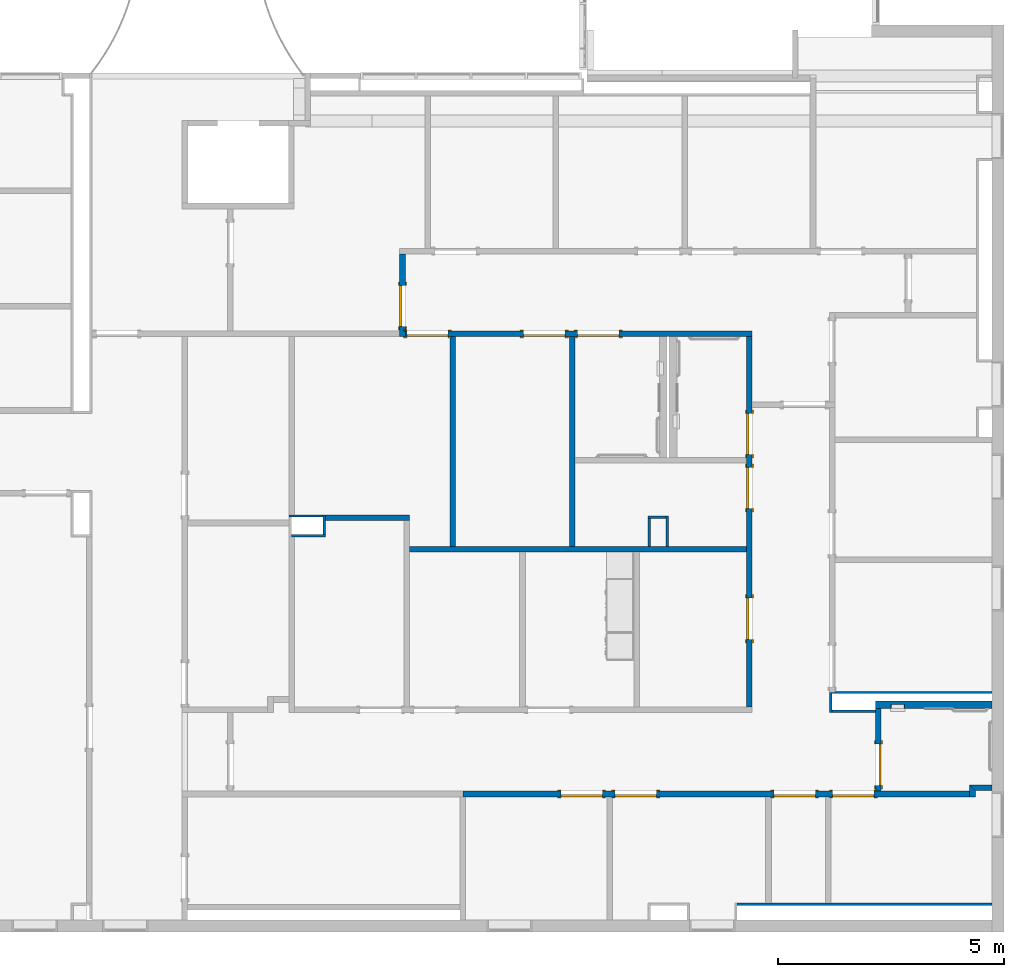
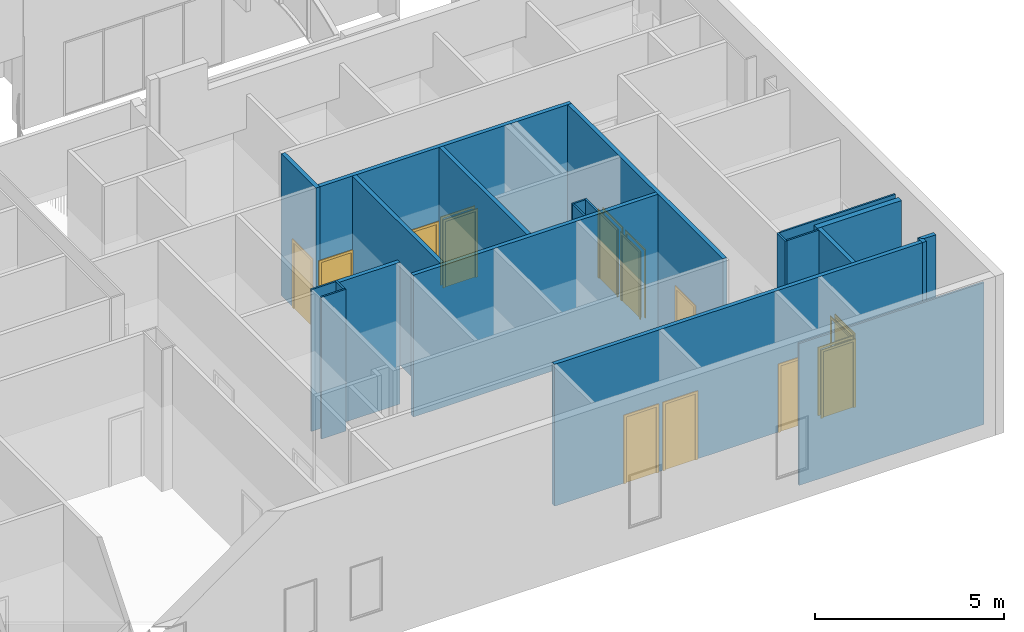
# One storey, part 15 of 45: 22 walls, 12 doors, 13 openings.
"""IFC2X3 building model written with IfcOpenShell, lengths in metres."""

from ifc_helpers import new_model, entity, si_unit, converted_unit, frame, frame_2d, origin, origin_2d_with_axis, place, context, project, spatial, polyline, rectangle, outline, extrude, source, transform, mapped, material, layer, layer_set, layer_usage, type_object, type_shapes, element, fill, save


model = new_model("IFC2X3")

# Units and contexts
model_context = context("Model", 3, precision=1e-09, world=origin())
plan_context = context("Plan", 3, precision=1e-09, world=origin())
ifc_project = project(units=[si_unit("LENGTHUNIT", "METRE"), si_unit("AREAUNIT", "SQUARE_METRE"), si_unit("VOLUMEUNIT", "CUBIC_METRE"), converted_unit("PLANEANGLEUNIT", "DEGREE", entity("IfcRatioMeasure", 0.01745329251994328), si_unit("PLANEANGLEUNIT", "RADIAN"), dimensions=[0, 0, 0, 0, 0, 0, 0]), si_unit("TIMEUNIT", "SECOND")], contexts=[model_context, plan_context])

# Site, building, storey
site_placement = place(None, origin())
site = spatial("IfcSite", under=ifc_project, at=site_placement, Name="Default", CompositionType="ELEMENT")
building_placement = place(site_placement, origin())
building = spatial("IfcBuilding", under=site, at=building_placement, CompositionType="ELEMENT")
storey_placement = place(building_placement, frame((0.0, 0.0, 4.570000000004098)))
storey = spatial("IfcBuildingStorey", under=building, at=storey_placement, Name="Second Floor", CompositionType="ELEMENT", Elevation=4.570000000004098)

# Wall, openings, doors
ifc_material_1 = material(Name="Plasterboard")
ifc_layer_1 = layer(ifc_material_1, 0.016)
ifc_material_2 = material(Name="Metal - Stud Layer")
ifc_layer_2 = layer(ifc_material_2, 0.092)
ifc_layer_3 = layer(ifc_material_1, 0.016)
ifc_layer_set_1 = layer_set([ifc_layer_1, ifc_layer_2, ifc_layer_3], Name="Basic Wall:Interior - Partition (92mm Stud)")
ifc_layer_usage_1 = layer_usage(ifc_layer_set_1, "AXIS2", "NEGATIVE", 0.062)
wall_1_placement = place(storey_placement, frame((-0.3790000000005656, 12.71799999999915, 0.0), z_axis=(0.0, 0.0, 1.0), x_axis=(-1.0, 0.0, 0.0)))
wall_1 = element("IfcWallStandardCase", 1, at=wall_1_placement, inside=storey, material=ifc_layer_usage_1, Name="Basic Wall:Interior - Partition (92mm Stud)", ObjectType="Basic Wall:Interior - Partition (92mm Stud)", context=model_context, shape_type="SweptSolid", body=[
    extrude(rectangle(XDim=11.23299985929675, YDim=0.1240000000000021, at=frame_2d((5.616499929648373, 0.0), x_axis=(-1.0, 0.0))), origin(), (0.0, 0.0, 1.0), 4.577999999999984),
])
opening_1_placement = place(wall_1_placement, frame((3.421999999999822, -0.06200000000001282, 0.0)))
opening_1 = element("IfcOpeningElement", 2, at=opening_1_placement, cuts=wall_1, Name="M_Single-Flush:0915 x 2134mm:0915 x 2134mm:1", ObjectType="Opening", context=model_context, shape_type="SweptSolid", body=[
    extrude(rectangle(XDim=0.9149999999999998, YDim=2.134, at=frame_2d((1.067, 0.4575), x_axis=(0.0, 1.0))), frame((0.0, 0.0, 0.0), z_axis=(0.0, 1.0, 0.0), x_axis=(0.0, 0.0, 1.0)), (0.0, 0.0, 1.0), 0.124),
])
opening_2_placement = place(wall_1_placement, frame((6.941999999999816, -0.06200000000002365, 0.0)))
opening_2 = element("IfcOpeningElement", 3, at=opening_2_placement, cuts=wall_1, Name="M_Single-Flush:0915 x 2134mm:0915 x 2134mm:1", ObjectType="Opening", context=model_context, shape_type="SweptSolid", body=[
    extrude(rectangle(XDim=0.9149999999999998, YDim=2.134, at=frame_2d((1.067, 0.4575), x_axis=(0.0, 1.0))), frame((0.0, 0.0, 0.0), z_axis=(0.0, 1.0, 0.0), x_axis=(0.0, 0.0, 1.0)), (0.0, 0.0, 1.0), 0.124),
])
opening_3_placement = place(wall_1_placement, frame((8.14099999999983, -0.06200000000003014, 0.0)))
opening_3 = element("IfcOpeningElement", 4, at=opening_3_placement, cuts=wall_1, Name="M_Single-Flush:0915 x 2134mm:0915 x 2134mm:1", ObjectType="Opening", context=model_context, shape_type="SweptSolid", body=[
    extrude(rectangle(XDim=0.9150000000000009, YDim=2.134, at=frame_2d((1.067, 0.4574999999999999), x_axis=(0.0, -1.0))), frame((0.0, 0.0, 0.0), z_axis=(0.0, 1.0, 0.0), x_axis=(0.0, 0.0, 1.0)), (0.0, 0.0, 1.0), 0.124),
])
opening_4_placement = place(wall_1_placement, frame((2.120499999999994, -0.06200000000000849, 0.0)))
opening_4 = element("IfcOpeningElement", 5, at=opening_4_placement, cuts=wall_1, Name="M_Single-Flush:0915 x 2134mm:0915 x 2134mm:1", ObjectType="Opening", context=model_context, shape_type="SweptSolid", body=[
    extrude(rectangle(XDim=0.9149999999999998, YDim=2.134, at=frame_2d((1.067, 0.4574999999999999), x_axis=(0.0, 1.0))), frame((0.0, 0.0, 0.0), z_axis=(0.0, 1.0, 0.0), x_axis=(0.0, 0.0, 1.0)), (0.0, 0.0, 1.0), 0.124),
])
door_style_1 = type_object("IfcDoorStyle", Name="0915 x 2134mm", ConstructionType="NOTDEFINED", OperationType="SINGLE_SWING_RIGHT", ParameterTakesPrecedence=False, Sizeable=False)
shared_shape_1 = source(origin(), model_context, "Body", "SweptSolid", [
    extrude(outline(polyline([(-0.5335, -1.123999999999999), (0.5334999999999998, -1.123999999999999), (0.5334999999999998, 1.086), (0.4574999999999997, 1.086), (0.4574999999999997, -1.048000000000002), (-0.4574999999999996, -1.048000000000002), (-0.4574999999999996, 1.086), (-0.5335, 1.086), (-0.5335, -1.123999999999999)])), frame((0.4575000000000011, 0.1239999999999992, 1.086), z_axis=(0.0, 1.0, 0.0), x_axis=(1.0, 0.0, 0.0)), (0.0, 0.0, 1.0), 0.02499999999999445),
    extrude(outline(polyline([(-1.123999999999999, -0.5334999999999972), (1.085999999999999, -0.5334999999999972), (1.085999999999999, -0.4575000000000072), (-1.048, -0.4575000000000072), (-1.048, 0.4575000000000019), (1.085999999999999, 0.4575000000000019), (1.085999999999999, 0.5335000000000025), (-1.123999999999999, 0.5335000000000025), (-1.123999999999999, -0.5334999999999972)])), frame((0.4575000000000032, -0.02500000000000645, 1.085999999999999), z_axis=(0.0, 1.0, 0.0), x_axis=(0.0, 0.0, -1.0)), (0.0, 0.0, 1.0), 0.02500000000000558),
    extrude(rectangle(XDim=0.051, YDim=0.9149999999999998, at=origin_2d_with_axis()), frame((0.4575000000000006, 0.09849999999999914, 0.0), z_axis=(0.0, 0.0, 1.0), x_axis=(0.0, 1.0, 0.0)), (0.0, 0.0, 1.0), 2.133999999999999),
])
type_shapes(door_style_1, [shared_shape_1])
door_1_placement = place(opening_2_placement, origin())
door_1 = element("IfcDoor", 6, at=door_1_placement, inside=storey, type_object=door_style_1, Name="M_Single-Flush:0915 x 2134mm:0915 x 2134mm", ObjectType="0915 x 2134mm", OverallHeight=2.134, OverallWidth=0.9149999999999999, context=model_context, shape_type="MappedRepresentation", body=[
    mapped(shared_shape_1, transform((0.0, 0.0, 0.0), scale=1.0)),
])
fill(opening_2, door_1)
door_2_placement = place(opening_1_placement, origin())
door_2 = element("IfcDoor", 7, at=door_2_placement, inside=storey, type_object=door_style_1, Name="M_Single-Flush:0915 x 2134mm:0915 x 2134mm", ObjectType="0915 x 2134mm", OverallHeight=2.134, OverallWidth=0.9149999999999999, context=model_context, shape_type="MappedRepresentation", body=[
    mapped(shared_shape_1, transform((0.0, 0.0, 0.0), scale=1.0)),
])
fill(opening_1, door_2)
door_3_placement = place(opening_4_placement, origin())
door_3 = element("IfcDoor", 8, at=door_3_placement, inside=storey, type_object=door_style_1, Name="M_Single-Flush:0915 x 2134mm:0915 x 2134mm", ObjectType="0915 x 2134mm", OverallHeight=2.134, OverallWidth=0.9149999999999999, context=model_context, shape_type="MappedRepresentation", body=[
    mapped(shared_shape_1, transform((0.0, 0.0, 0.0), scale=1.0)),
])
fill(opening_4, door_3)
door_style_2 = type_object("IfcDoorStyle", Name="0915 x 2134mm", ConstructionType="NOTDEFINED", OperationType="SINGLE_SWING_LEFT", ParameterTakesPrecedence=False, Sizeable=False)
shared_shape_2 = source(origin(), model_context, "Body", "SweptSolid", [
    extrude(outline(polyline([(-0.5335, -1.123999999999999), (0.5334999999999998, -1.123999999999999), (0.5334999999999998, 1.086), (0.4574999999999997, 1.086), (0.4574999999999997, -1.048000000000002), (-0.4574999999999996, -1.048000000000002), (-0.4574999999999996, 1.086), (-0.5335, 1.086), (-0.5335, -1.123999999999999)])), frame((0.4575000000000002, 0.1489999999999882, 1.086), z_axis=(0.0, -1.0, 0.0), x_axis=(-1.0, 0.0, 0.0)), (0.0, 0.0, 1.0), 0.02499999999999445),
    extrude(outline(polyline([(-1.123999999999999, -0.5334999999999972), (1.085999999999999, -0.5334999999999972), (1.085999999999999, -0.4575000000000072), (-1.048, -0.4575000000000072), (-1.048, 0.4575000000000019), (1.085999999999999, 0.4575000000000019), (1.085999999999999, 0.5335000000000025), (-1.123999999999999, 0.5335000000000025), (-1.123999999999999, -0.5334999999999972)])), frame((0.4574999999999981, 0.0, 1.085999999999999), z_axis=(0.0, -1.0, 0.0), x_axis=(0.0, 0.0, -1.0)), (0.0, 0.0, 1.0), 0.02500000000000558),
    extrude(rectangle(XDim=0.9149999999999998, YDim=0.051, at=origin_2d_with_axis()), frame((0.4575000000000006, 0.09849999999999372, 0.0)), (0.0, 0.0, 1.0), 2.133999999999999),
])
type_shapes(door_style_2, [shared_shape_2])
door_4_placement = place(opening_3_placement, origin())
door_4 = element("IfcDoor", 9, at=door_4_placement, inside=storey, type_object=door_style_2, Name="M_Single-Flush:0915 x 2134mm:0915 x 2134mm", ObjectType="0915 x 2134mm", OverallHeight=2.134, OverallWidth=0.9149999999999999, context=model_context, shape_type="MappedRepresentation", body=[
    mapped(shared_shape_2, transform((0.0, 0.0, 0.0), scale=1.0)),
])
fill(opening_3, door_4)

# Wall
wall_2_placement = place(storey_placement, frame((-12.79000000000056, 18.14243871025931, 0.0)))
element("IfcWallStandardCase", 10, at=wall_2_placement, inside=storey, material=ifc_layer_usage_1, Name="Basic Wall:Interior - Partition (92mm Stud)", ObjectType="Basic Wall:Interior - Partition (92mm Stud)", context=model_context, shape_type="SweptSolid", body=[
    extrude(rectangle(XDim=7.465999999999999, YDim=0.1240000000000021, at=frame_2d((3.733, 0.0), x_axis=(-1.0, 0.0))), origin(), (0.0, 0.0, 1.0), 4.577999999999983),
])

# Wall, openings, doors
wall_3_placement = place(storey_placement, frame((-12.88600000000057, 22.91243871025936, 0.0)))
wall_3 = element("IfcWallStandardCase", 11, at=wall_3_placement, inside=storey, material=ifc_layer_usage_1, Name="Basic Wall:Interior - Partition (92mm Stud)", ObjectType="Basic Wall:Interior - Partition (92mm Stud)", context=model_context, shape_type="SweptSolid", body=[
    extrude(rectangle(XDim=7.68600000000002, YDim=0.1239999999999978, at=frame_2d((3.84300000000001, 0.0), x_axis=(-1.0, 0.0))), origin(), (0.0, 0.0, 1.0), 4.577999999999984),
])
opening_5_placement = place(wall_3_placement, frame((0.9505000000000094, 0.0619999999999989, 0.0)))
opening_5 = element("IfcOpeningElement", 12, at=opening_5_placement, cuts=wall_3, Name="M_Single-Flush:0915 x 2134mm:0915 x 2134mm:1", ObjectType="Opening", context=model_context, shape_type="SweptSolid", body=[
    extrude(rectangle(XDim=0.9149999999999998, YDim=2.134, at=frame_2d((1.067, 0.4575000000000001), x_axis=(0.0, -1.0))), frame((0.0, 0.0, 0.0), z_axis=(0.0, -1.0, 0.0), x_axis=(0.0, 0.0, 1.0)), (0.0, 0.0, 1.0), 0.124),
])
opening_6_placement = place(wall_3_placement, frame((4.735000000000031, 0.06199999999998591, 0.0)))
opening_6 = element("IfcOpeningElement", 13, at=opening_6_placement, cuts=wall_3, Name="M_Single-Flush:0915 x 2134mm:0915 x 2134mm:1", ObjectType="Opening", context=model_context, shape_type="SweptSolid", body=[
    extrude(rectangle(XDim=0.9149999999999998, YDim=2.134, at=frame_2d((1.067, 0.4575), x_axis=(0.0, 1.0))), frame((0.0, 0.0, 0.0), z_axis=(0.0, -1.0, 0.0), x_axis=(0.0, 0.0, 1.0)), (0.0, 0.0, 1.0), 0.124),
])
opening_7_placement = place(wall_3_placement, frame((3.536000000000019, 0.06199999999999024, 0.0)))
opening_7 = element("IfcOpeningElement", 14, at=opening_7_placement, cuts=wall_3, Name="M_Single-Flush:0915 x 2134mm:0915 x 2134mm:1", ObjectType="Opening", context=model_context, shape_type="SweptSolid", body=[
    extrude(rectangle(XDim=0.9149999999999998, YDim=2.134, at=frame_2d((1.067, 0.4575000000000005), x_axis=(0.0, -1.0))), frame((0.0, 0.0, 0.0), z_axis=(0.0, -1.0, 0.0), x_axis=(0.0, 0.0, 1.0)), (0.0, 0.0, 1.0), 0.124),
])
door_5_placement = place(opening_6_placement, frame((0.0, 0.0, 0.0), z_axis=(0.0, 0.0, 1.0), x_axis=(-1.0, 0.0, 0.0)))
door_5 = element("IfcDoor", 15, at=door_5_placement, inside=storey, type_object=door_style_1, Name="M_Single-Flush:0915 x 2134mm:0915 x 2134mm", ObjectType="0915 x 2134mm", OverallHeight=2.134, OverallWidth=0.9149999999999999, context=model_context, shape_type="MappedRepresentation", body=[
    mapped(shared_shape_1, transform((0.0, 0.0, 0.0), scale=1.0)),
])
fill(opening_6, door_5)
door_6_placement = place(opening_5_placement, frame((0.0, 0.0, 0.0), z_axis=(0.0, 0.0, 1.0), x_axis=(-1.0, 0.0, 0.0)))
door_6 = element("IfcDoor", 16, at=door_6_placement, inside=storey, type_object=door_style_2, Name="M_Single-Flush:0915 x 2134mm:0915 x 2134mm", ObjectType="0915 x 2134mm", OverallHeight=2.134, OverallWidth=0.9149999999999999, context=model_context, shape_type="MappedRepresentation", body=[
    mapped(shared_shape_2, transform((0.0, 0.0, 0.0), scale=1.0)),
])
fill(opening_5, door_6)
door_7_placement = place(opening_7_placement, frame((0.0, 0.0, 0.0), z_axis=(0.0, 0.0, 1.0), x_axis=(-1.0, 0.0, 0.0)))
door_7 = element("IfcDoor", 17, at=door_7_placement, inside=storey, type_object=door_style_2, Name="M_Single-Flush:0915 x 2134mm:0915 x 2134mm", ObjectType="0915 x 2134mm", OverallHeight=2.134, OverallWidth=0.9149999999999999, context=model_context, shape_type="MappedRepresentation", body=[
    mapped(shared_shape_2, transform((0.0, 0.0, 0.0), scale=1.0)),
])
fill(opening_7, door_7)

wall_4_placement = place(storey_placement, frame((-5.26200000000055, 22.85043871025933, 0.0), z_axis=(0.0, 0.0, 1.0), x_axis=(0.0, -1.0, 0.0)))
wall_4 = element("IfcWallStandardCase", 18, at=wall_4_placement, inside=storey, material=ifc_layer_usage_1, Name="Basic Wall:Interior - Partition (92mm Stud)", ObjectType="Basic Wall:Interior - Partition (92mm Stud)", context=model_context, shape_type="SweptSolid", body=[
    extrude(rectangle(XDim=8.202000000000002, YDim=0.124, at=frame_2d((4.101000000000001, 0.0), x_axis=(-1.0, 0.0))), origin(), (0.0, 0.0, 1.0), 4.577999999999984),
])
opening_8_placement = place(wall_4_placement, frame((3.811000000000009, 0.06199999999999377, 0.0)))
opening_8 = element("IfcOpeningElement", 19, at=opening_8_placement, cuts=wall_4, Name="M_Single-Flush:0915 x 2134mm:0915 x 2134mm:1", ObjectType="Opening", context=model_context, shape_type="SweptSolid", body=[
    extrude(rectangle(XDim=0.9149999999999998, YDim=2.134, at=frame_2d((1.067, 0.4575), x_axis=(0.0, 1.0))), frame((0.0, 0.0, 0.0), z_axis=(0.0, -1.0, 0.0), x_axis=(0.0, 0.0, 1.0)), (0.0, 0.0, 1.0), 0.124),
])
opening_9_placement = place(wall_4_placement, frame((6.705000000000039, 0.06199999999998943, 0.0)))
opening_9 = element("IfcOpeningElement", 20, at=opening_9_placement, cuts=wall_4, Name="M_Single-Flush:0915 x 2134mm:0915 x 2134mm:1", ObjectType="Opening", context=model_context, shape_type="SweptSolid", body=[
    extrude(rectangle(XDim=0.9149999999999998, YDim=2.134, at=frame_2d((1.067, 0.4575), x_axis=(0.0, 1.0))), frame((0.0, 0.0, 0.0), z_axis=(0.0, -1.0, 0.0), x_axis=(0.0, 0.0, 1.0)), (0.0, 0.0, 1.0), 0.124),
])
opening_10_placement = place(wall_4_placement, frame((2.612000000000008, 0.06199999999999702, 0.0)))
opening_10 = element("IfcOpeningElement", 21, at=opening_10_placement, cuts=wall_4, Name="M_Single-Flush:0915 x 2134mm:0915 x 2134mm:1", ObjectType="Opening", context=model_context, shape_type="SweptSolid", body=[
    extrude(rectangle(XDim=0.9149999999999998, YDim=2.134, at=frame_2d((1.067, 0.4574999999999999), x_axis=(0.0, -1.0))), frame((0.0, 0.0, 0.0), z_axis=(0.0, -1.0, 0.0), x_axis=(0.0, 0.0, 1.0)), (0.0, 0.0, 1.0), 0.124),
])
door_8_placement = place(opening_8_placement, frame((0.0, 0.0, 0.0), z_axis=(0.0, 0.0, 1.0), x_axis=(-1.0, 0.0, 0.0)))
door_8 = element("IfcDoor", 22, at=door_8_placement, inside=storey, type_object=door_style_1, Name="M_Single-Flush:0915 x 2134mm:0915 x 2134mm", ObjectType="0915 x 2134mm", OverallHeight=2.134, OverallWidth=0.9149999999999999, context=model_context, shape_type="MappedRepresentation", body=[
    mapped(shared_shape_1, transform((0.0, 0.0, 0.0), scale=1.0)),
])
fill(opening_8, door_8)
door_9_placement = place(opening_9_placement, frame((0.0, 0.0, 0.0), z_axis=(0.0, 0.0, 1.0), x_axis=(-1.0, 0.0, 0.0)))
door_9 = element("IfcDoor", 23, at=door_9_placement, inside=storey, type_object=door_style_1, Name="M_Single-Flush:0915 x 2134mm:0915 x 2134mm", ObjectType="0915 x 2134mm", OverallHeight=2.134, OverallWidth=0.9149999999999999, context=model_context, shape_type="MappedRepresentation", body=[
    mapped(shared_shape_1, transform((0.0, 0.0, 0.0), scale=1.0)),
])
fill(opening_9, door_9)
door_10_placement = place(opening_10_placement, frame((0.0, 0.0, 0.0), z_axis=(0.0, 0.0, 1.0), x_axis=(-1.0, 0.0, 0.0)))
door_10 = element("IfcDoor", 24, at=door_10_placement, inside=storey, type_object=door_style_2, Name="M_Single-Flush:0915 x 2134mm:0915 x 2134mm", ObjectType="0915 x 2134mm", OverallHeight=2.134, OverallWidth=0.9149999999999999, context=model_context, shape_type="MappedRepresentation", body=[
    mapped(shared_shape_2, transform((0.0, 0.0, 0.0), scale=1.0)),
])
fill(opening_10, door_10)

# Wall, opening, door
wall_5_placement = place(storey_placement, frame((-2.402000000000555, 14.61443871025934, 0.0), z_axis=(0.0, 0.0, 1.0), x_axis=(0.0, -1.0, 0.0)))
wall_5 = element("IfcWallStandardCase", 25, at=wall_5_placement, inside=storey, material=ifc_layer_usage_1, Name="Basic Wall:Interior - Partition (92mm Stud)", ObjectType="Basic Wall:Interior - Partition (92mm Stud)", context=model_context, shape_type="SweptSolid", body=[
    extrude(rectangle(XDim=1.834438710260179, YDim=0.124, at=frame_2d((0.9172193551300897, 0.0), x_axis=(-1.0, 0.0))), origin(), (0.0, 0.0, 1.0), 4.577999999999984),
])
opening_11_placement = place(wall_5_placement, frame((0.7909999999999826, -0.06200000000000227, 0.0)))
opening_11 = element("IfcOpeningElement", 26, at=opening_11_placement, cuts=wall_5, Name="M_Single-Flush:0915 x 2134mm:0915 x 2134mm:1", ObjectType="Opening", context=model_context, shape_type="SweptSolid", body=[
    extrude(rectangle(XDim=0.9149999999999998, YDim=2.134, at=frame_2d((1.067, 0.4575), x_axis=(0.0, 1.0))), frame((0.0, 0.0, 0.0), z_axis=(0.0, 1.0, 0.0), x_axis=(0.0, 0.0, 1.0)), (0.0, 0.0, 1.0), 0.124),
])
door_11_placement = place(opening_11_placement, origin())
door_11 = element("IfcDoor", 27, at=door_11_placement, inside=storey, type_object=door_style_1, Name="M_Single-Flush:0915 x 2134mm:0915 x 2134mm", ObjectType="0915 x 2134mm", OverallHeight=2.134, OverallWidth=0.9149999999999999, context=model_context, shape_type="MappedRepresentation", body=[
    mapped(shared_shape_1, transform((0.0, 0.0, 0.0), scale=1.0)),
])
fill(opening_11, door_11)

wall_6_placement = place(storey_placement, frame((-12.94800000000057, 22.85043871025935, 0.0), z_axis=(0.0, 0.0, 1.0), x_axis=(0.0, 1.0, 0.0)))
wall_6 = element("IfcWallStandardCase", 28, at=wall_6_placement, inside=storey, material=ifc_layer_usage_1, Name="Basic Wall:Interior - Partition (92mm Stud)", ObjectType="Basic Wall:Interior - Partition (92mm Stud)", context=model_context, shape_type="SweptSolid", body=[
    extrude(rectangle(XDim=1.834000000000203, YDim=0.1240000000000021, at=frame_2d((0.9170000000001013, 0.0), x_axis=(-1.0, 0.0))), origin(), (0.0, 0.0, 1.0), 4.577999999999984),
])
opening_12_placement = place(wall_6_placement, frame((0.2240000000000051, -0.06199999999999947, 0.0)))
opening_12 = element("IfcOpeningElement", 29, at=opening_12_placement, cuts=wall_6, Name="M_Single-Flush:0915 x 2134mm:0915 x 2134mm:1", ObjectType="Opening", context=model_context, shape_type="SweptSolid", body=[
    extrude(rectangle(XDim=0.9149999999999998, YDim=2.134, at=frame_2d((1.067, 0.4575000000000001), x_axis=(0.0, -1.0))), frame((0.0, 0.0, 0.0), z_axis=(0.0, 1.0, 0.0), x_axis=(0.0, 0.0, 1.0)), (0.0, 0.0, 1.0), 0.124),
])
door_12_placement = place(opening_12_placement, origin())
door_12 = element("IfcDoor", 30, at=door_12_placement, inside=storey, type_object=door_style_2, Name="M_Single-Flush:0915 x 2134mm:0915 x 2134mm", ObjectType="0915 x 2134mm", OverallHeight=2.134, OverallWidth=0.9149999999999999, context=model_context, shape_type="MappedRepresentation", body=[
    mapped(shared_shape_2, transform((0.0, 0.0, 0.0), scale=1.0)),
])
fill(opening_12, door_12)

# Walls
ifc_layer_4 = layer(ifc_material_2, 0.038)
ifc_layer_5 = layer(ifc_material_1, 0.016)
ifc_layer_set_2 = layer_set([ifc_layer_4, ifc_layer_5], Name="Basic Wall:Interior - Furring (38 mm Stud)")
ifc_layer_usage_2 = layer_usage(ifc_layer_set_2, "AXIS2", "NEGATIVE", 0.027)
wall_7_placement = place(storey_placement, frame((-3.463000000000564, 14.96743871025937, 0.0), z_axis=(0.0, 0.0, 1.0), x_axis=(0.0, -1.0, 0.0)))
element("IfcWallStandardCase", 31, at=wall_7_placement, inside=storey, material=ifc_layer_usage_2, Name="Basic Wall:Interior - Furring (38 mm Stud)", ObjectType="Basic Wall:Interior - Furring (38 mm Stud)", context=model_context, shape_type="SweptSolid", body=[
    extrude(rectangle(XDim=0.4430000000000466, YDim=0.05399999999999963, at=frame_2d((0.2215000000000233, 0.0), x_axis=(-1.0, 0.0))), origin(), (0.0, 0.0, 1.0), 4.577999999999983),
])
wall_8_placement = place(storey_placement, frame((-9.188000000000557, 18.2044387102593, 0.0), z_axis=(0.0, 0.0, 1.0), x_axis=(0.0, 1.0, 0.0)))
element("IfcWallStandardCase", 32, at=wall_8_placement, inside=storey, material=ifc_layer_usage_1, Name="Basic Wall:Interior - Partition (92mm Stud)", ObjectType="Basic Wall:Interior - Partition (92mm Stud)", context=model_context, shape_type="SweptSolid", body=[
    extrude(rectangle(XDim=4.64600000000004, YDim=0.124, at=frame_2d((2.32300000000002, 0.0), x_axis=(-1.0, 0.0))), origin(), (0.0, 0.0, 1.0), 4.577999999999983),
])
wall_9_placement = place(storey_placement, frame((-14.64997500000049, 18.84243871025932, 0.0)))
element("IfcWallStandardCase", 33, at=wall_9_placement, inside=storey, material=ifc_layer_usage_1, Name="Basic Wall:Interior - Partition (92mm Stud)", ObjectType="Basic Wall:Interior - Partition (92mm Stud)", context=model_context, shape_type="SweptSolid", body=[
    extrude(rectangle(XDim=1.85997499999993, YDim=0.1240000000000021, at=frame_2d((0.9299874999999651, 0.0), x_axis=(-1.0, 0.0))), origin(), (0.0, 0.0, 1.0), 4.577999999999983),
])
ifc_layer_usage_3 = layer_usage(ifc_layer_set_2, "AXIS2", "POSITIVE", -0.027)
wall_10_placement = place(storey_placement, frame((-5.531003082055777, 10.27743871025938, 0.0)))
element("IfcWallStandardCase", 34, at=wall_10_placement, inside=storey, material=ifc_layer_usage_3, Name="Basic Wall:Interior - Furring (38 mm Stud)", ObjectType="Basic Wall:Interior - Furring (38 mm Stud)", context=model_context, shape_type="SweptSolid", body=[
    extrude(rectangle(XDim=5.644003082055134, YDim=0.05400000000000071, at=frame_2d((2.822001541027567, 0.0), x_axis=(-1.0, 0.0))), origin(), (0.0, 0.0, 1.0), 4.577999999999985),
])
wall_11_placement = place(storey_placement, frame((-15.46000000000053, 18.87743871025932, 0.0)))
element("IfcWallStandardCase", 35, at=wall_11_placement, inside=storey, material=ifc_layer_usage_3, Name="Basic Wall:Interior - Furring (38 mm Stud)", ObjectType="Basic Wall:Interior - Furring (38 mm Stud)", context=model_context, shape_type="SweptSolid", body=[
    extrude(rectangle(XDim=0.7560250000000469, YDim=0.05400000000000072, at=frame_2d((0.3780125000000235, 0.0), x_axis=(-1.0, 0.0))), origin(), (0.0, 0.0, 1.0), 4.577999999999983),
])
wall_12_placement = place(storey_placement, frame((0.1129999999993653, 14.96743871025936, 0.0), z_axis=(0.0, 0.0, 1.0), x_axis=(-1.0, 0.0, 0.0)))
element("IfcWallStandardCase", 36, at=wall_12_placement, inside=storey, material=ifc_layer_usage_2, Name="Basic Wall:Interior - Furring (38 mm Stud)", ObjectType="Basic Wall:Interior - Furring (38 mm Stud)", context=model_context, shape_type="SweptSolid", body=[
    extrude(outline(polyline([(3.478999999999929, -0.02700000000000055), (3.47899999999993, 0.0), (3.548999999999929, 0.0), (3.548999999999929, 0.02700000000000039), (0.0, 0.02700000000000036), (0.0, -0.02700000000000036), (3.478999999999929, -0.02700000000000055)])), origin(), (0.0, 0.0, 1.0), 4.577999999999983),
])
wall_13_placement = place(storey_placement, frame((-14.64997500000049, 18.44143871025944, 0.0), z_axis=(0.0, 0.0, 1.0), x_axis=(-1.0, 0.0, 0.0)))
element("IfcWallStandardCase", 37, at=wall_13_placement, inside=storey, material=ifc_layer_usage_3, Name="Basic Wall:Interior - Furring (38 mm Stud)", ObjectType="Basic Wall:Interior - Furring (38 mm Stud)", context=model_context, shape_type="SweptSolid", body=[
    extrude(rectangle(XDim=0.7560250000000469, YDim=0.05400000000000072, at=frame_2d((0.3780125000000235, 0.0), x_axis=(-1.0, 0.0))), origin(), (0.0, 0.0, 1.0), 4.577999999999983),
])
wall_14_placement = place(storey_placement, frame((-14.67697500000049, 18.90443871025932, 0.0), z_axis=(0.0, 0.0, 1.0), x_axis=(0.0, -1.0, 0.0)))
element("IfcWallStandardCase", 38, at=wall_14_placement, inside=storey, material=ifc_layer_usage_3, Name="Basic Wall:Interior - Furring (38 mm Stud)", ObjectType="Basic Wall:Interior - Furring (38 mm Stud)", context=model_context, shape_type="SweptSolid", body=[
    extrude(rectangle(XDim=0.4359999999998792, YDim=0.05400000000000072, at=frame_2d((0.2179999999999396, 0.0), x_axis=(-1.0, 0.0))), origin(), (0.0, 0.0, 1.0), 4.577999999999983),
])
wall_15_placement = place(storey_placement, frame((-11.83800000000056, 18.20443871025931, 0.0), z_axis=(0.0, 0.0, 1.0), x_axis=(0.0, 1.0, 0.0)))
element("IfcWallStandardCase", 39, at=wall_15_placement, inside=storey, material=ifc_layer_usage_1, Name="Basic Wall:Interior - Partition (92mm Stud)", ObjectType="Basic Wall:Interior - Partition (92mm Stud)", context=model_context, shape_type="SweptSolid", body=[
    extrude(rectangle(XDim=4.64600000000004, YDim=0.1240000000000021, at=frame_2d((2.32300000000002, 0.0), x_axis=(-1.0, 0.0))), origin(), (0.0, 0.0, 1.0), 4.577999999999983),
])
wall_16_placement = place(storey_placement, frame((-2.464000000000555, 14.55143871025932, 0.0), z_axis=(0.0, 0.0, 1.0), x_axis=(-1.0, 0.0, 0.0)))
element("IfcWallStandardCase", 40, at=wall_16_placement, inside=storey, material=ifc_layer_usage_3, Name="Basic Wall:Interior - Furring (38 mm Stud)", ObjectType="Basic Wall:Interior - Furring (38 mm Stud)", context=model_context, shape_type="SweptSolid", body=[
    extrude(rectangle(XDim=0.9720000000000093, YDim=0.05400000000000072, at=frame_2d((0.4860000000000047, 0.0), x_axis=(-1.0, 0.0))), origin(), (0.0, 0.0, 1.0), 4.577999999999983),
])

# Wall, opening
ifc_layer_6 = layer(ifc_material_2, 0.152)
ifc_layer_7 = layer(ifc_material_1, 0.016)
ifc_layer_set_3 = layer_set([ifc_layer_6, ifc_layer_7], Name="Basic Wall:Interior - Furring (152 mm Stud)")
ifc_layer_usage_4 = layer_usage(ifc_layer_set_3, "AXIS2", "POSITIVE", -0.08399999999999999)
wall_17_placement = place(storey_placement, frame((0.112999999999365, 14.69843871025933, 0.0), z_axis=(0.0, 0.0, 1.0), x_axis=(-1.0, 0.0, 0.0)))
wall_17 = element("IfcWallStandardCase", 41, at=wall_17_placement, inside=storey, material=ifc_layer_usage_4, Name="Basic Wall:Interior - Furring (152 mm Stud)", ObjectType="Basic Wall:Interior - Furring (152 mm Stud)", context=model_context, shape_type="SweptSolid", body=[
    extrude(rectangle(XDim=2.576999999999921, YDim=0.1680000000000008, at=frame_2d((1.28849999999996, 0.0), x_axis=(-1.0, 0.0))), origin(), (0.0, 0.0, 1.0), 4.577999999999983),
])
opening_13_placement = place(wall_17_placement, origin())
element("IfcOpeningElement", 42, at=opening_13_placement, cuts=wall_17, ObjectType="Opening", context=model_context, shape_type="SweptSolid", body=[
    extrude(rectangle(XDim=1.362075, YDim=0.2984500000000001, at=frame_2d((0.0, 0.0), x_axis=(0.0, 1.0))), frame((2.087899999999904, -0.004900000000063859, 1.041399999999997), z_axis=(0.0, 1.0, 0.0), x_axis=(1.0, 0.0, 0.0)), (0.0, 0.0, 1.0), 0.1524000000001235),
])

# Walls
wall_18_placement = place(storey_placement, frame((0.1129999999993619, 12.85643871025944, 0.0), z_axis=(0.0, 0.0, 1.0), x_axis=(-1.0, 0.0, 0.0)))
element("IfcWallStandardCase", 43, at=wall_18_placement, inside=storey, material=ifc_layer_usage_1, Name="Basic Wall:Interior - Partition (92mm Stud)", ObjectType="Basic Wall:Interior - Partition (92mm Stud)", context=model_context, shape_type="SweptSolid", body=[
    extrude(outline(polyline([(0.4919999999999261, -0.06199999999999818), (0.3679999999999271, 0.06200000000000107), (0.0, 0.06200000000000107), (0.0, -0.0619999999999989), (0.4919999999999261, -0.06199999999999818)])), origin(), (0.0, 0.0, 1.0), 4.577999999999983),
])
wall_19_placement = place(storey_placement, frame((-7.077000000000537, 18.2044387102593, 0.0), z_axis=(0.0, 0.0, 1.0), x_axis=(0.0, 1.0, 0.0)))
element("IfcWallStandardCase", 44, at=wall_19_placement, inside=storey, material=ifc_layer_usage_2, Name="Basic Wall:Interior - Furring (38 mm Stud)", ObjectType="Basic Wall:Interior - Furring (38 mm Stud)", context=model_context, shape_type="SweptSolid", body=[
    extrude(rectangle(XDim=0.6700000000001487, YDim=0.05400000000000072, at=frame_2d((0.3350000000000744, 0.0), x_axis=(-1.0, 0.0))), origin(), (0.0, 0.0, 1.0), 4.577999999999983),
])
wall_20_placement = place(storey_placement, frame((-7.483000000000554, 18.82043871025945, 0.0), z_axis=(0.0, 0.0, 1.0), x_axis=(0.0, -1.0, 0.0)))
element("IfcWallStandardCase", 45, at=wall_20_placement, inside=storey, material=ifc_layer_usage_2, Name="Basic Wall:Interior - Furring (38 mm Stud)", ObjectType="Basic Wall:Interior - Furring (38 mm Stud)", context=model_context, shape_type="SweptSolid", body=[
    extrude(rectangle(XDim=0.6160000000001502, YDim=0.05400000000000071, at=frame_2d((0.3080000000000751, 0.0), x_axis=(-1.0, 0.0))), origin(), (0.0, 0.0, 1.0), 4.577999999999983),
])
wall_21_placement = place(storey_placement, frame((-7.104000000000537, 18.84743871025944, 0.0), z_axis=(0.0, 0.0, 1.0), x_axis=(-1.0, 0.0, 0.0)))
element("IfcWallStandardCase", 46, at=wall_21_placement, inside=storey, material=ifc_layer_usage_2, Name="Basic Wall:Interior - Furring (38 mm Stud)", ObjectType="Basic Wall:Interior - Furring (38 mm Stud)", context=model_context, shape_type="SweptSolid", body=[
    extrude(rectangle(XDim=0.406000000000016, YDim=0.05400000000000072, at=frame_2d((0.203000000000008, 0.0), x_axis=(-1.0, 0.0))), origin(), (0.0, 0.0, 1.0), 4.577999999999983),
])
wall_22_placement = place(storey_placement, frame((-0.3170000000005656, 12.91843871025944, 0.0), z_axis=(0.0, 0.0, 1.0), x_axis=(0.0, -1.0, 0.0)))
element("IfcWallStandardCase", 47, at=wall_22_placement, inside=storey, material=ifc_layer_usage_1, Name="Basic Wall:Interior - Partition (92mm Stud)", ObjectType="Basic Wall:Interior - Partition (92mm Stud)", context=model_context, shape_type="SweptSolid", body=[
    extrude(outline(polyline([(0.2624387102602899, -0.06200000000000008), (0.2624387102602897, 0.06199999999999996), (0.1240000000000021, 0.06199999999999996), (0.0, -0.06200000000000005), (0.1384387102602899, -0.06200000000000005), (0.2624387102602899, -0.06200000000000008)])), origin(), (0.0, 0.0, 1.0), 4.577999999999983),
])

save(model, "model.ifc")
